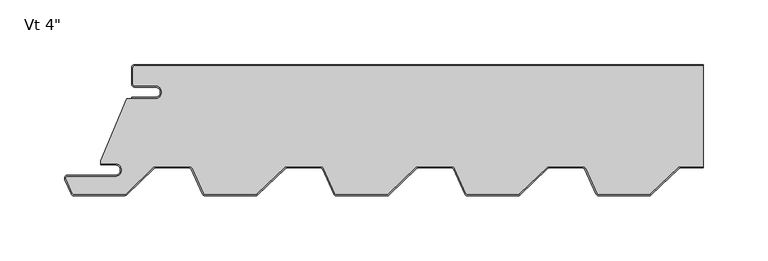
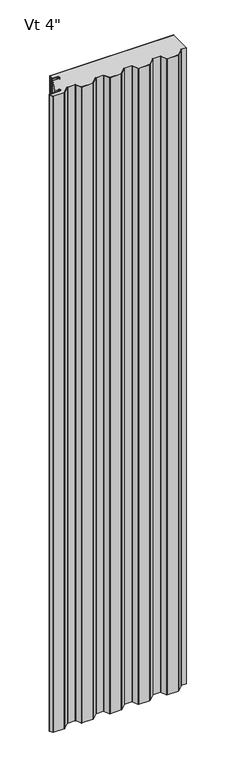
"""IFC4 building model written with IfcOpenShell, lengths in millimetres: plate geometry."""

import ifcopenshell
import ifcopenshell.guid

model = None  # the IFC model being written
_history = None  # IfcOwnerHistory: only IFC2X3 demands one
_inside = {}  # id of a spatial element -> (the spatial element, [elements in it])
_under = {}  # id of a project, library or spatial element -> (it, [spatial elements below it])
_declared = {}  # id of a project -> (the project, [libraries it declares])
_typed = {}  # id of a type object -> (the type object, [elements of that type])
_made_of = {}  # id of a material, layer set ... -> (it, [elements and type objects made of it])


def new_model(schema):
    """Start an empty IFC model of exactly this schema.

    Asked for "IFC4X3", IfcOpenShell would pick the latest addendum, in which some entities
    have other attributes; the version numbers below select the first issue.
    IFC2X3 requires an IfcOwnerHistory on every rooted entity: one is made here for all.
    """
    global model, _history
    if schema == "IFC4X3":
        model = ifcopenshell.file(schema_version=(4, 3, 0, 0))
    else:
        model = ifcopenshell.file(schema=schema)
    _inside.clear()
    _under.clear()
    _declared.clear()
    _typed.clear()
    _made_of.clear()
    _history = None
    if model.schema == "IFC2X3":
        org = make("IfcOrganization", Name="unknown")
        user = make(
            "IfcPersonAndOrganization",
            ThePerson=make("IfcPerson", FamilyName="unknown"),
            TheOrganization=org,
        )
        app = make(
            "IfcApplication",
            ApplicationDeveloper=org,
            Version="unknown",
            ApplicationFullName="unknown",
            ApplicationIdentifier="unknown",
        )
        _history = make(
            "IfcOwnerHistory",
            OwningUser=user,
            OwningApplication=app,
            ChangeAction="ADDED",
            CreationDate=0,
        )
    return model


def make(cls, **values):
    """One entity of the class cls with the attributes given. An attribute that is None is left unset."""
    return model.create_entity(
        cls, **{name: value for name, value in values.items() if value is not None}
    )


def rooted(cls, **values):
    """An entity with a GlobalId (a new one), such as an element, a storey or a relation."""
    return make(cls, GlobalId=ifcopenshell.guid.new(), OwnerHistory=_history, **values)


def si_unit(unit_type, name, prefix=None):
    """IfcSIUnit, for example si_unit("LENGTHUNIT", "METRE", prefix="MILLI")."""
    return make("IfcSIUnit", UnitType=unit_type, Prefix=prefix, Name=name)


def assignment(units):
    """IfcUnitAssignment: the units of a project."""
    return None if units is None else make("IfcUnitAssignment", Units=units)


def point(xyz):
    """IfcCartesianPoint."""
    return None if xyz is None else make("IfcCartesianPoint", Coordinates=xyz)


def direction(xyz):
    """IfcDirection."""
    return None if xyz is None else make("IfcDirection", DirectionRatios=xyz)


def frame(location, z_axis=None, x_axis=None):
    """IfcAxis2Placement3D, a coordinate frame: its origin and axes. An axis left out is left unset."""
    return make(
        "IfcAxis2Placement3D",
        Location=point(location),
        Axis=direction(z_axis),
        RefDirection=direction(x_axis),
    )


def frame_2d(location, x_axis=None):
    """IfcAxis2Placement2D, a coordinate frame in the plane: its origin and x axis."""
    return make(
        "IfcAxis2Placement2D", Location=point(location), RefDirection=direction(x_axis)
    )


def origin():
    """The frame at (0, 0, 0) with its axes left unset."""
    return frame((0.0, 0.0, 0.0))


def origin_with_axes():
    """The frame at (0, 0, 0) with the z axis (0, 0, 1) and the x axis (1, 0, 0) written out."""
    return frame((0.0, 0.0, 0.0), z_axis=(0.0, 0.0, 1.0), x_axis=(1.0, 0.0, 0.0))


def place(relative_to, where):
    """IfcLocalPlacement: puts the frame where relative to a parent placement (None: the world)."""
    return make(
        "IfcLocalPlacement", PlacementRelTo=relative_to, RelativePlacement=where
    )


def context(
    kind, dimensions, precision=None, world=None, true_north=None, identifier=None
):
    """IfcGeometricRepresentationContext, for example the 3D "Model" context."""
    return make(
        "IfcGeometricRepresentationContext",
        ContextIdentifier=identifier,
        ContextType=kind,
        CoordinateSpaceDimension=dimensions,
        Precision=precision,
        WorldCoordinateSystem=world,
        TrueNorth=true_north,
    )


def project(units=None, contexts=None):
    """IfcProject with its units and contexts."""
    return rooted(
        "IfcProject",
        Name="project",
        RepresentationContexts=contexts,
        UnitsInContext=assignment(units),
    )


def spatial(cls, under=None, at=None, **own):
    """A site, building, storey or space (cls), placed at a placement, below another one or the project."""
    s = rooted(cls, ObjectPlacement=at, **own)
    if under is not None:
        _under.setdefault(under.id(), (under, []))[1].append(s)
    return s


def polyline(points):
    """IfcPolyline through the points."""
    return make("IfcPolyline", Points=[point(p) for p in points])


def circle_curve(where, radius):
    """IfcCircle in the frame where."""
    return make("IfcCircle", Position=where, Radius=radius)


def trimmed(basis, trim1, trim2, sense, master):
    """IfcTrimmedCurve: the piece of a basis curve between two trims."""
    return make(
        "IfcTrimmedCurve",
        BasisCurve=basis,
        Trim1=trim1,
        Trim2=trim2,
        SenseAgreement=sense,
        MasterRepresentation=master,
    )


def segment(curve, same_sense, transition):
    """IfcCompositeCurveSegment."""
    return make(
        "IfcCompositeCurveSegment",
        Transition=transition,
        SameSense=same_sense,
        ParentCurve=curve,
    )


def composite_curve(segments, self_intersect=None):
    """IfcCompositeCurve: segments joined end to end."""
    return make("IfcCompositeCurve", Segments=segments, SelfIntersect=self_intersect)


def outline(outer, holes=None, kind="AREA"):
    """IfcArbitraryClosedProfileDef: a profile drawn as a closed curve; with holes, ...WithVoids."""
    if holes is None:
        return make("IfcArbitraryClosedProfileDef", ProfileType=kind, OuterCurve=outer)
    return make(
        "IfcArbitraryProfileDefWithVoids",
        ProfileType=kind,
        OuterCurve=outer,
        InnerCurves=holes,
    )


def extrude(swept, where, along, depth):
    """IfcExtrudedAreaSolid: the profile swept, set in the frame where, extruded along a direction by depth."""
    return make(
        "IfcExtrudedAreaSolid",
        SweptArea=swept,
        Position=where,
        ExtrudedDirection=direction(along),
        Depth=depth,
    )


def shape(context_of_items, identifier, shape_type, items):
    """IfcShapeRepresentation: the items that make up one representation, for example the "Body"."""
    return make(
        "IfcShapeRepresentation",
        ContextOfItems=context_of_items,
        RepresentationIdentifier=identifier,
        RepresentationType=shape_type,
        Items=items,
    )


def source(mapping_origin, context_of_items, identifier, shape_type, items):
    """IfcRepresentationMap: a shape defined once, which mapped items show again and again."""
    return make(
        "IfcRepresentationMap",
        MappingOrigin=mapping_origin,
        MappedRepresentation=shape(context_of_items, identifier, shape_type, items),
    )


def transform(
    local_origin,
    x_axis=None,
    y_axis=None,
    z_axis=None,
    scale=None,
    scale2=None,
    scale3=None,
    uniform=True,
):
    """IfcCartesianTransformationOperator3D, or its non-uniform kind. x_axis, y_axis, z_axis: its Axis1, 2, 3."""
    if uniform:
        return make(
            "IfcCartesianTransformationOperator3D",
            Axis1=direction(x_axis),
            Axis2=direction(y_axis),
            LocalOrigin=point(local_origin),
            Scale=scale,
            Axis3=direction(z_axis),
        )
    return make(
        "IfcCartesianTransformationOperator3DnonUniform",
        Axis1=direction(x_axis),
        Axis2=direction(y_axis),
        LocalOrigin=point(local_origin),
        Scale=scale,
        Axis3=direction(z_axis),
        Scale2=scale2,
        Scale3=scale3,
    )


def mapped(mapping_source, mapping_target):
    """IfcMappedItem: shows the shape of a source again, moved by a transform."""
    return make(
        "IfcMappedItem", MappingSource=mapping_source, MappingTarget=mapping_target
    )


def made_of(thing, what):
    """Note that an element or type object is made of a material, layer set ...; save() writes the relation."""
    if what is not None:
        _made_of.setdefault(what.id(), (what, []))[1].append(thing)
    return thing


def element(
    cls,
    number,
    at=None,
    inside=None,
    cuts=None,
    type_object=None,
    material=None,
    context=None,
    identifier="Body",
    shape_type=None,
    held_by="IfcProductDefinitionShape",
    body=None,
    shapes=None,
    **own,
):
    """One element of the class cls, such as IfcWall. Its Tag is "e" and its number.

    at: its placement. inside: the storey or other place that contains it. cuts: it is an
    opening in that element (IfcRelVoidsElement). A single representation is given by context,
    identifier, shape_type and body (its items); several are given by shapes. held_by: the class
    of the entity that holds the representations. save() writes the other relations.
    """
    e = rooted(cls, Tag="e%d" % number, ObjectPlacement=at, **own)
    if body is not None:
        shapes = [shape(context, identifier, shape_type, body)]
    if shapes is not None:
        e.Representation = make(held_by, Representations=shapes)
    if inside is not None:
        _inside.setdefault(inside.id(), (inside, []))[1].append(e)
    if cuts is not None:
        rooted(
            "IfcRelVoidsElement", RelatingBuildingElement=cuts, RelatedOpeningElement=e
        )
    if type_object is not None:
        _typed.setdefault(type_object.id(), (type_object, []))[1].append(e)
    return made_of(e, material)


def aggregate(whole, parts):
    """IfcRelAggregates: a whole, such as a stair, and the parts it consists of."""
    return rooted("IfcRelAggregates", RelatingObject=whole, RelatedObjects=parts)


def save(model, path):
    """Write the relations noted so far, then the file.

    IfcRelAggregates (storeys below a building ...), IfcRelContainedInSpatialStructure (elements
    in a storey), IfcRelDefinesByType, IfcRelAssociatesMaterial and IfcRelDeclares: one each for
    every whole, place, type object, material and project.
    """
    for whole, parts in _under.values():
        aggregate(whole, parts)
    for where, things in _inside.values():
        rooted(
            "IfcRelContainedInSpatialStructure",
            RelatedElements=things,
            RelatingStructure=where,
        )
    for kind, things in _typed.values():
        rooted("IfcRelDefinesByType", RelatedObjects=things, RelatingType=kind)
    for what, things in _made_of.values():
        rooted("IfcRelAssociatesMaterial", RelatedObjects=things, RelatingMaterial=what)
    for by, libraries in _declared.values():
        rooted("IfcRelDeclares", RelatingContext=by, RelatedDefinitions=libraries)
    model.write(path)


def plate_a3e9c651(model_context):
    return source(origin(), model_context, "Body", "SweptSolid", [
        extrude(outline(composite_curve([segment(trimmed(circle_curve(frame_2d((-202.7499998, -21.4324412)), 4.96875), [point((-202.7499998, -26.4011912))], [point((-202.7499998, -16.4636912))], True, "CARTESIAN"), True, "CONTINUOUS"), segment(polyline([(-202.7499998, -16.4636912), (-218.6249998, -16.4636912)]), True, "CONTINUOUS"), segment(trimmed(circle_curve(frame_2d((-218.6249998, -15.0824412)), 1.38125), [point((-218.6249998, -16.4636912))], [point((-220.0062498, -15.0824412))], False, "CARTESIAN"), True, "CONTINUOUS"), segment(polyline([(-220.0062498, -15.0824412), (-220.0062498, -2.3824412)]), True, "CONTINUOUS"), segment(trimmed(circle_curve(frame_2d((-218.6249998, -2.3824412)), 1.38125), [point((-220.0062498, -2.3824412))], [point((-218.6249998, -1.0011912))], False, "CARTESIAN"), True, "CONTINUOUS"), segment(polyline([(-218.6249998, -1.0011912), (221.7999998, -1.0011912), (221.7999998, -79.0862), (203.6679504, -79.0862)]), True, "CONTINUOUS"), segment(trimmed(circle_curve(frame_2d((203.6679504, -81.6737)), 2.5875), [point((203.6679504, -79.0862))], [point((201.8682998, -79.8145567))], True, "CARTESIAN"), True, "CONTINUOUS"), segment(polyline([(201.8682998, -79.8145567), (180.7973964, -100.2111912)]), True, "CONTINUOUS"), segment(trimmed(circle_curve(frame_2d((179.8367133, -99.21875)), 1.38125), [point((180.7973964, -100.2111912))], [point((179.8367133, -100.6))], False, "CARTESIAN"), True, "CONTINUOUS"), segment(polyline([(179.8367133, -100.6), (140.7000059, -100.6)]), True, "CONTINUOUS"), segment(trimmed(circle_curve(frame_2d((140.7000059, -99.21875)), 1.38125), [point((140.7000059, -100.6))], [point((139.4370056, -99.7779296))], False, "CARTESIAN"), True, "CONTINUOUS"), segment(polyline([(139.4370056, -99.7779296), (130.9577807, -80.6261871)]), True, "CONTINUOUS"), segment(trimmed(circle_curve(frame_2d((128.5917983, -81.6737)), 2.5875), [point((130.9577807, -80.6261871))], [point((128.5917983, -79.0862))], True, "CARTESIAN"), True, "CONTINUOUS"), segment(polyline([(128.5917983, -79.0862), (102.0679504, -79.0862)]), True, "CONTINUOUS"), segment(trimmed(circle_curve(frame_2d((102.0679504, -81.6737)), 2.5875), [point((102.0679504, -79.0862))], [point((100.2682998, -79.8145567))], True, "CARTESIAN"), True, "CONTINUOUS"), segment(polyline([(100.2682998, -79.8145567), (79.1973964, -100.2111912)]), True, "CONTINUOUS"), segment(trimmed(circle_curve(frame_2d((78.2367133, -99.21875)), 1.38125), [point((79.1973964, -100.2111912))], [point((78.2367133, -100.6))], False, "CARTESIAN"), True, "CONTINUOUS"), segment(polyline([(78.2367133, -100.6), (39.1000059, -100.6)]), True, "CONTINUOUS"), segment(trimmed(circle_curve(frame_2d((39.1000059, -99.21875)), 1.38125), [point((39.1000059, -100.6))], [point((37.8370056, -99.7779296))], False, "CARTESIAN"), True, "CONTINUOUS"), segment(polyline([(37.8370056, -99.7779296), (29.3577807, -80.6261871)]), True, "CONTINUOUS"), segment(trimmed(circle_curve(frame_2d((26.9917983, -81.6737)), 2.5875), [point((29.3577807, -80.6261871))], [point((26.9917983, -79.0862))], True, "CARTESIAN"), True, "CONTINUOUS"), segment(polyline([(26.9917983, -79.0862), (0.4679504, -79.0862)]), True, "CONTINUOUS"), segment(trimmed(circle_curve(frame_2d((0.4679504, -81.6737)), 2.5875), [point((0.4679504, -79.0862))], [point((-1.3317002, -79.8145567))], True, "CARTESIAN"), True, "CONTINUOUS"), segment(polyline([(-1.3317002, -79.8145567), (-22.4026036, -100.2111912)]), True, "CONTINUOUS"), segment(trimmed(circle_curve(frame_2d((-23.3632867, -99.21875)), 1.38125), [point((-22.4026036, -100.2111912))], [point((-23.3632867, -100.6))], False, "CARTESIAN"), True, "CONTINUOUS"), segment(polyline([(-23.3632867, -100.6), (-62.4999941, -100.6)]), True, "CONTINUOUS"), segment(trimmed(circle_curve(frame_2d((-62.4999941, -99.21875)), 1.38125), [point((-62.4999941, -100.6))], [point((-63.7629944, -99.7779296))], False, "CARTESIAN"), True, "CONTINUOUS"), segment(polyline([(-63.7629944, -99.7779296), (-72.2422193, -80.6261871)]), True, "CONTINUOUS"), segment(trimmed(circle_curve(frame_2d((-74.6082017, -81.6737)), 2.5875), [point((-72.2422193, -80.6261871))], [point((-74.6082017, -79.0862))], True, "CARTESIAN"), True, "CONTINUOUS"), segment(polyline([(-74.6082017, -79.0862), (-101.1320496, -79.0862)]), True, "CONTINUOUS"), segment(trimmed(circle_curve(frame_2d((-101.1320496, -81.6737)), 2.5875), [point((-101.1320496, -79.0862))], [point((-102.9317002, -79.8145567))], True, "CARTESIAN"), True, "CONTINUOUS"), segment(polyline([(-102.9317002, -79.8145567), (-124.0026036, -100.2111912)]), True, "CONTINUOUS"), segment(trimmed(circle_curve(frame_2d((-124.9632867, -99.21875)), 1.38125), [point((-124.0026036, -100.2111912))], [point((-124.9632867, -100.6))], False, "CARTESIAN"), True, "CONTINUOUS"), segment(polyline([(-124.9632867, -100.6), (-164.0999941, -100.6)]), True, "CONTINUOUS"), segment(trimmed(circle_curve(frame_2d((-164.0999941, -99.21875)), 1.38125), [point((-164.0999941, -100.6))], [point((-165.3629944, -99.7779296))], False, "CARTESIAN"), True, "CONTINUOUS"), segment(polyline([(-165.3629944, -99.7779296), (-173.8422193, -80.6261871)]), True, "CONTINUOUS"), segment(trimmed(circle_curve(frame_2d((-176.2082017, -81.6737)), 2.5875), [point((-173.8422193, -80.6261871))], [point((-176.2082017, -79.0862))], True, "CARTESIAN"), True, "CONTINUOUS"), segment(polyline([(-176.2082017, -79.0862), (-202.7320496, -79.0862)]), True, "CONTINUOUS"), segment(trimmed(circle_curve(frame_2d((-202.7320496, -81.6737)), 2.5875), [point((-202.7320496, -79.0862))], [point((-204.5317002, -79.8145567))], True, "CARTESIAN"), True, "CONTINUOUS"), segment(polyline([(-204.5317002, -79.8145567), (-225.393943, -100.0092077)]), True, "CONTINUOUS"), segment(trimmed(circle_curve(frame_2d((-226.8536944, -98.5012)), 2.0988), [point((-225.393943, -100.0092077))], [point((-226.8536944, -100.6))], False, "CARTESIAN"), True, "CONTINUOUS"), segment(polyline([(-226.8536944, -100.6), (-265.6999941, -100.6)]), True, "CONTINUOUS"), segment(trimmed(circle_curve(frame_2d((-265.6999941, -99.21875)), 1.38125), [point((-265.6999941, -100.6))], [point((-266.9629944, -99.7779296))], False, "CARTESIAN"), True, "CONTINUOUS"), segment(polyline([(-266.9629944, -99.7779296), (-271.8824051, -88.6666208)]), True, "CONTINUOUS"), segment(trimmed(circle_curve(frame_2d((-270.6194048, -88.1074412)), 1.38125), [point((-271.8824051, -88.6666208))], [point((-270.6194048, -86.7261912))], False, "CARTESIAN"), True, "CONTINUOUS"), segment(polyline([(-270.6194048, -86.7261912), (-233.7062498, -86.7261912)]), True, "CONTINUOUS"), segment(trimmed(circle_curve(frame_2d((-233.7062498, -81.7574412)), 4.96875), [point((-233.7062498, -86.7261912))], [point((-233.7062498, -76.7886912))], True, "CARTESIAN"), True, "CONTINUOUS"), segment(polyline([(-233.7062498, -76.7886912), (-244.8187498, -76.7886912), (-244.8187498, -74.633822), (-224.997661, -26.4011912), (-202.7499998, -26.4011912)]), True, "CONTINUOUS")], self_intersect=False)), origin_with_axes(), (0.0, 0.0, 1.0), 2400.0),
        extrude(outline(composite_curve([segment(polyline([(-221.0062498, -25.4), (-202.7499998, -25.4)]), True, "CONTINUOUS"), segment(trimmed(circle_curve(frame_2d((-202.7499998, -21.43125)), 3.96875), [point((-202.7499998, -25.4))], [point((-202.7499998, -17.4625))], True, "CARTESIAN"), True, "CONTINUOUS"), segment(polyline([(-202.7499998, -17.4625), (-218.6249998, -17.4625)]), True, "CONTINUOUS"), segment(trimmed(circle_curve(frame_2d((-218.6249998, -15.08125)), 2.38125), [point((-218.6249998, -17.4625))], [point((-221.0062498, -15.08125))], False, "CARTESIAN"), True, "CONTINUOUS"), segment(polyline([(-221.0062498, -15.08125), (-221.0062498, -2.38125)]), True, "CONTINUOUS"), segment(trimmed(circle_curve(frame_2d((-218.6249998, -2.38125)), 2.38125), [point((-221.0062498, -2.38125))], [point((-218.6249998, 0.0))], False, "CARTESIAN"), True, "CONTINUOUS"), segment(polyline([(-218.6249998, 0.0), (221.7999998, 0.0), (221.7999998, -1.0), (-218.6249998, -1.0)]), True, "CONTINUOUS"), segment(trimmed(circle_curve(frame_2d((-218.6249998, -2.38125)), 1.38125), [point((-218.6249998, -1.0))], [point((-220.0062498, -2.38125))], True, "CARTESIAN"), True, "CONTINUOUS"), segment(polyline([(-220.0062498, -2.38125), (-220.0062498, -15.08125)]), True, "CONTINUOUS"), segment(trimmed(circle_curve(frame_2d((-218.6249998, -15.08125)), 1.38125), [point((-220.0062498, -15.08125))], [point((-218.6249998, -16.4625))], True, "CARTESIAN"), True, "CONTINUOUS"), segment(polyline([(-218.6249998, -16.4625), (-202.7499998, -16.4625)]), True, "CONTINUOUS"), segment(trimmed(circle_curve(frame_2d((-202.7499998, -21.43125)), 4.96875), [point((-202.7499998, -16.4625))], [point((-202.7499998, -26.4))], False, "CARTESIAN"), True, "CONTINUOUS"), segment(polyline([(-202.7499998, -26.4), (-221.0062498, -26.4), (-221.0062498, -25.4)]), True, "CONTINUOUS")], self_intersect=False)), origin_with_axes(), (0.0, 0.0, 1.0), 2400.0),
        extrude(outline(composite_curve([segment(trimmed(circle_curve(frame_2d((-233.7062498, -81.7574412)), 3.96875), [point((-233.7062498, -85.7261912))], [point((-233.7062498, -77.7886912))], True, "CARTESIAN"), True, "CONTINUOUS"), segment(polyline([(-233.7062498, -77.7886912), (-244.8187498, -77.7886912), (-244.8187498, -76.7886912), (-233.7062498, -76.7886912)]), True, "CONTINUOUS"), segment(trimmed(circle_curve(frame_2d((-233.7062498, -81.7574412)), 4.96875), [point((-233.7062498, -76.7886912))], [point((-233.7062498, -86.7261912))], False, "CARTESIAN"), True, "CONTINUOUS"), segment(polyline([(-233.7062498, -86.7261912), (-270.6194048, -86.7261912)]), True, "CONTINUOUS"), segment(trimmed(circle_curve(frame_2d((-270.6194048, -88.1074412)), 1.38125), [point((-270.6194048, -86.7261912))], [point((-271.8824051, -88.6666208))], True, "CARTESIAN"), True, "CONTINUOUS"), segment(polyline([(-271.8824051, -88.6666208), (-266.9629944, -99.7779296)]), True, "CONTINUOUS"), segment(trimmed(circle_curve(frame_2d((-265.6999941, -99.21875)), 1.38125), [point((-266.9629944, -99.7779296))], [point((-265.6999941, -100.6))], True, "CARTESIAN"), True, "CONTINUOUS"), segment(polyline([(-265.6999941, -100.6), (-226.8536944, -100.6)]), True, "CONTINUOUS"), segment(trimmed(circle_curve(frame_2d((-226.8536944, -98.5012)), 2.0988), [point((-226.8536944, -100.6))], [point((-225.393943, -100.0092077))], True, "CARTESIAN"), True, "CONTINUOUS"), segment(polyline([(-225.393943, -100.0092077), (-204.5317002, -79.8145567)]), True, "CONTINUOUS"), segment(trimmed(circle_curve(frame_2d((-202.7320496, -81.6737)), 2.5875), [point((-204.5317002, -79.8145567))], [point((-202.7320496, -79.0862))], False, "CARTESIAN"), True, "CONTINUOUS"), segment(polyline([(-202.7320496, -79.0862), (-176.2082017, -79.0862)]), True, "CONTINUOUS"), segment(trimmed(circle_curve(frame_2d((-176.2082017, -81.6737)), 2.5875), [point((-176.2082017, -79.0862))], [point((-173.8422193, -80.6261871))], False, "CARTESIAN"), True, "CONTINUOUS"), segment(polyline([(-173.8422193, -80.6261871), (-165.3629944, -99.7779296)]), True, "CONTINUOUS"), segment(trimmed(circle_curve(frame_2d((-164.0999941, -99.21875)), 1.38125), [point((-165.3629944, -99.7779296))], [point((-164.0999941, -100.6))], True, "CARTESIAN"), True, "CONTINUOUS"), segment(polyline([(-164.0999941, -100.6), (-124.9632867, -100.6)]), True, "CONTINUOUS"), segment(trimmed(circle_curve(frame_2d((-124.9632867, -99.21875)), 1.38125), [point((-124.9632867, -100.6))], [point((-124.0026036, -100.2111912))], True, "CARTESIAN"), True, "CONTINUOUS"), segment(polyline([(-124.0026036, -100.2111912), (-102.9317002, -79.8145567)]), True, "CONTINUOUS"), segment(trimmed(circle_curve(frame_2d((-101.1320496, -81.6737)), 2.5875), [point((-102.9317002, -79.8145567))], [point((-101.1320496, -79.0862))], False, "CARTESIAN"), True, "CONTINUOUS"), segment(polyline([(-101.1320496, -79.0862), (-74.6082017, -79.0862)]), True, "CONTINUOUS"), segment(trimmed(circle_curve(frame_2d((-74.6082017, -81.6737)), 2.5875), [point((-74.6082017, -79.0862))], [point((-72.2422193, -80.6261871))], False, "CARTESIAN"), True, "CONTINUOUS"), segment(polyline([(-72.2422193, -80.6261871), (-63.7629944, -99.7779296)]), True, "CONTINUOUS"), segment(trimmed(circle_curve(frame_2d((-62.4999941, -99.21875)), 1.38125), [point((-63.7629944, -99.7779296))], [point((-62.4999941, -100.6))], True, "CARTESIAN"), True, "CONTINUOUS"), segment(polyline([(-62.4999941, -100.6), (-23.3632867, -100.6)]), True, "CONTINUOUS"), segment(trimmed(circle_curve(frame_2d((-23.3632867, -99.21875)), 1.38125), [point((-23.3632867, -100.6))], [point((-22.4026036, -100.2111912))], True, "CARTESIAN"), True, "CONTINUOUS"), segment(polyline([(-22.4026036, -100.2111912), (-1.3317002, -79.8145567)]), True, "CONTINUOUS"), segment(trimmed(circle_curve(frame_2d((0.4679504, -81.6737)), 2.5875), [point((-1.3317002, -79.8145567))], [point((0.4679504, -79.0862))], False, "CARTESIAN"), True, "CONTINUOUS"), segment(polyline([(0.4679504, -79.0862), (26.9917983, -79.0862)]), True, "CONTINUOUS"), segment(trimmed(circle_curve(frame_2d((26.9917983, -81.6737)), 2.5875), [point((26.9917983, -79.0862))], [point((29.3577807, -80.6261871))], False, "CARTESIAN"), True, "CONTINUOUS"), segment(polyline([(29.3577807, -80.6261871), (37.8370056, -99.7779296)]), True, "CONTINUOUS"), segment(trimmed(circle_curve(frame_2d((39.1000059, -99.21875)), 1.38125), [point((37.8370056, -99.7779296))], [point((39.1000059, -100.6))], True, "CARTESIAN"), True, "CONTINUOUS"), segment(polyline([(39.1000059, -100.6), (78.2367133, -100.6)]), True, "CONTINUOUS"), segment(trimmed(circle_curve(frame_2d((78.2367133, -99.21875)), 1.38125), [point((78.2367133, -100.6))], [point((79.1973964, -100.2111912))], True, "CARTESIAN"), True, "CONTINUOUS"), segment(polyline([(79.1973964, -100.2111912), (100.2682998, -79.8145567)]), True, "CONTINUOUS"), segment(trimmed(circle_curve(frame_2d((102.0679504, -81.6737)), 2.5875), [point((100.2682998, -79.8145567))], [point((102.0679504, -79.0862))], False, "CARTESIAN"), True, "CONTINUOUS"), segment(polyline([(102.0679504, -79.0862), (128.5917983, -79.0862)]), True, "CONTINUOUS"), segment(trimmed(circle_curve(frame_2d((128.5917983, -81.6737)), 2.5875), [point((128.5917983, -79.0862))], [point((130.9577807, -80.6261871))], False, "CARTESIAN"), True, "CONTINUOUS"), segment(polyline([(130.9577807, -80.6261871), (139.4370056, -99.7779296)]), True, "CONTINUOUS"), segment(trimmed(circle_curve(frame_2d((140.7000059, -99.21875)), 1.38125), [point((139.4370056, -99.7779296))], [point((140.7000059, -100.6))], True, "CARTESIAN"), True, "CONTINUOUS"), segment(polyline([(140.7000059, -100.6), (179.8367133, -100.6)]), True, "CONTINUOUS"), segment(trimmed(circle_curve(frame_2d((179.8367133, -99.21875)), 1.38125), [point((179.8367133, -100.6))], [point((180.7973964, -100.2111912))], True, "CARTESIAN"), True, "CONTINUOUS"), segment(polyline([(180.7973964, -100.2111912), (201.8682998, -79.8145567)]), True, "CONTINUOUS"), segment(trimmed(circle_curve(frame_2d((203.6679504, -81.6737)), 2.5875), [point((201.8682998, -79.8145567))], [point((203.6679504, -79.0862))], False, "CARTESIAN"), True, "CONTINUOUS"), segment(polyline([(203.6679504, -79.0862), (221.7999998, -79.0862), (221.7999998, -80.0862), (203.6679504, -80.0862)]), True, "CONTINUOUS"), segment(trimmed(circle_curve(frame_2d((203.6679504, -81.6737)), 1.5875), [point((203.6679504, -80.0862))], [point((202.5638169, -80.5330662))], True, "CARTESIAN"), True, "CONTINUOUS"), segment(polyline([(202.5638169, -80.5330662), (181.4929135, -100.9297007)]), True, "CONTINUOUS"), segment(trimmed(circle_curve(frame_2d((179.8367133, -99.21875)), 2.38125), [point((181.4929135, -100.9297007))], [point((179.8367133, -101.6))], False, "CARTESIAN"), True, "CONTINUOUS"), segment(polyline([(179.8367133, -101.6), (140.7000059, -101.6)]), True, "CONTINUOUS"), segment(trimmed(circle_curve(frame_2d((140.7000059, -99.21875)), 2.38125), [point((140.7000059, -101.6))], [point((138.5226162, -100.1827655))], False, "CARTESIAN"), True, "CONTINUOUS"), segment(polyline([(138.5226162, -100.1827655), (130.0433914, -81.031023)]), True, "CONTINUOUS"), segment(trimmed(circle_curve(frame_2d((128.5917983, -81.6737)), 1.5875), [point((130.0433914, -81.031023))], [point((128.5917983, -80.0862))], True, "CARTESIAN"), True, "CONTINUOUS"), segment(polyline([(128.5917983, -80.0862), (102.0679504, -80.0862)]), True, "CONTINUOUS"), segment(trimmed(circle_curve(frame_2d((102.0679504, -81.6737)), 1.5875), [point((102.0679504, -80.0862))], [point((100.9638169, -80.5330662))], True, "CARTESIAN"), True, "CONTINUOUS"), segment(polyline([(100.9638169, -80.5330662), (79.8929135, -100.9297007)]), True, "CONTINUOUS"), segment(trimmed(circle_curve(frame_2d((78.2367133, -99.21875)), 2.38125), [point((79.8929135, -100.9297007))], [point((78.2367133, -101.6))], False, "CARTESIAN"), True, "CONTINUOUS"), segment(polyline([(78.2367133, -101.6), (39.1000059, -101.6)]), True, "CONTINUOUS"), segment(trimmed(circle_curve(frame_2d((39.1000059, -99.21875)), 2.38125), [point((39.1000059, -101.6))], [point((36.9226162, -100.1827655))], False, "CARTESIAN"), True, "CONTINUOUS"), segment(polyline([(36.9226162, -100.1827655), (28.4433914, -81.031023)]), True, "CONTINUOUS"), segment(trimmed(circle_curve(frame_2d((26.9917983, -81.6737)), 1.5875), [point((28.4433914, -81.031023))], [point((26.9917983, -80.0862))], True, "CARTESIAN"), True, "CONTINUOUS"), segment(polyline([(26.9917983, -80.0862), (0.4679504, -80.0862)]), True, "CONTINUOUS"), segment(trimmed(circle_curve(frame_2d((0.4679504, -81.6737)), 1.5875), [point((0.4679504, -80.0862))], [point((-0.6361831, -80.5330662))], True, "CARTESIAN"), True, "CONTINUOUS"), segment(polyline([(-0.6361831, -80.5330662), (-21.7070865, -100.9297007)]), True, "CONTINUOUS"), segment(trimmed(circle_curve(frame_2d((-23.3632867, -99.21875)), 2.38125), [point((-21.7070865, -100.9297007))], [point((-23.3632867, -101.6))], False, "CARTESIAN"), True, "CONTINUOUS"), segment(polyline([(-23.3632867, -101.6), (-62.4999941, -101.6)]), True, "CONTINUOUS"), segment(trimmed(circle_curve(frame_2d((-62.4999941, -99.21875)), 2.38125), [point((-62.4999941, -101.6))], [point((-64.6773838, -100.1827655))], False, "CARTESIAN"), True, "CONTINUOUS"), segment(polyline([(-64.6773838, -100.1827655), (-73.1566086, -81.031023)]), True, "CONTINUOUS"), segment(trimmed(circle_curve(frame_2d((-74.6082017, -81.6737)), 1.5875), [point((-73.1566086, -81.031023))], [point((-74.6082017, -80.0862))], True, "CARTESIAN"), True, "CONTINUOUS"), segment(polyline([(-74.6082017, -80.0862), (-101.1320496, -80.0862)]), True, "CONTINUOUS"), segment(trimmed(circle_curve(frame_2d((-101.1320496, -81.6737)), 1.5875), [point((-101.1320496, -80.0862))], [point((-102.2361831, -80.5330662))], True, "CARTESIAN"), True, "CONTINUOUS"), segment(polyline([(-102.2361831, -80.5330662), (-123.3070865, -100.9297007)]), True, "CONTINUOUS"), segment(trimmed(circle_curve(frame_2d((-124.9632867, -99.21875)), 2.38125), [point((-123.3070865, -100.9297007))], [point((-124.9632867, -101.6))], False, "CARTESIAN"), True, "CONTINUOUS"), segment(polyline([(-124.9632867, -101.6), (-164.0999941, -101.6)]), True, "CONTINUOUS"), segment(trimmed(circle_curve(frame_2d((-164.0999941, -99.21875)), 2.38125), [point((-164.0999941, -101.6))], [point((-166.2773838, -100.1827655))], False, "CARTESIAN"), True, "CONTINUOUS"), segment(polyline([(-166.2773838, -100.1827655), (-174.7566086, -81.031023)]), True, "CONTINUOUS"), segment(trimmed(circle_curve(frame_2d((-176.2082017, -81.6737)), 1.5875), [point((-174.7566086, -81.031023))], [point((-176.2082017, -80.0862))], True, "CARTESIAN"), True, "CONTINUOUS"), segment(polyline([(-176.2082017, -80.0862), (-202.7320496, -80.0862)]), True, "CONTINUOUS"), segment(trimmed(circle_curve(frame_2d((-202.7320496, -81.6737)), 1.5875), [point((-202.7320496, -80.0862))], [point((-203.8361831, -80.5330662))], True, "CARTESIAN"), True, "CONTINUOUS"), segment(polyline([(-203.8361831, -80.5330662), (-224.6984258, -100.7277172)]), True, "CONTINUOUS"), segment(trimmed(circle_curve(frame_2d((-226.8536944, -98.5012)), 3.0988), [point((-224.6984258, -100.7277172))], [point((-226.8536944, -101.6))], False, "CARTESIAN"), True, "CONTINUOUS"), segment(polyline([(-226.8536944, -101.6), (-265.6999941, -101.6)]), True, "CONTINUOUS"), segment(trimmed(circle_curve(frame_2d((-265.6999941, -99.21875)), 2.38125), [point((-265.6999941, -101.6))], [point((-267.8773838, -100.1827655))], False, "CARTESIAN"), True, "CONTINUOUS"), segment(polyline([(-267.8773838, -100.1827655), (-272.7967944, -89.0714567)]), True, "CONTINUOUS"), segment(trimmed(circle_curve(frame_2d((-270.6194048, -88.1074412)), 2.38125), [point((-272.7967944, -89.0714567))], [point((-270.6194048, -85.7261912))], False, "CARTESIAN"), True, "CONTINUOUS"), segment(polyline([(-270.6194048, -85.7261912), (-233.7062498, -85.7261912)]), True, "CONTINUOUS")], self_intersect=False)), origin_with_axes(), (0.0, 0.0, 1.0), 2400.0),
    ])


if __name__ == "__main__":
    model = new_model("IFC4")
    model_context = context("Model", 3, world=origin())
    ifc_project = project(units=[si_unit("LENGTHUNIT", "METRE", prefix="MILLI")], contexts=[model_context])
    site = spatial("IfcSite", under=ifc_project)
    building = spatial("IfcBuilding", under=site)
    placement = place(None, origin())
    plate_shape = plate_a3e9c651(model_context)
    element("IfcPlate", 1, ObjectType="KIP-20-DWR-R19-CP-Vt-S : Vt 4\"", at=placement, inside=building, context=model_context, shape_type="MappedRepresentation", body=[
        mapped(plate_shape, transform((0.0, 0.0, 0.0), x_axis=(1.0, 0.0, 0.0), y_axis=(0.0, 1.0, 0.0), z_axis=(0.0, 0.0, 1.0))),
    ])
    save(model, "model.ifc")
